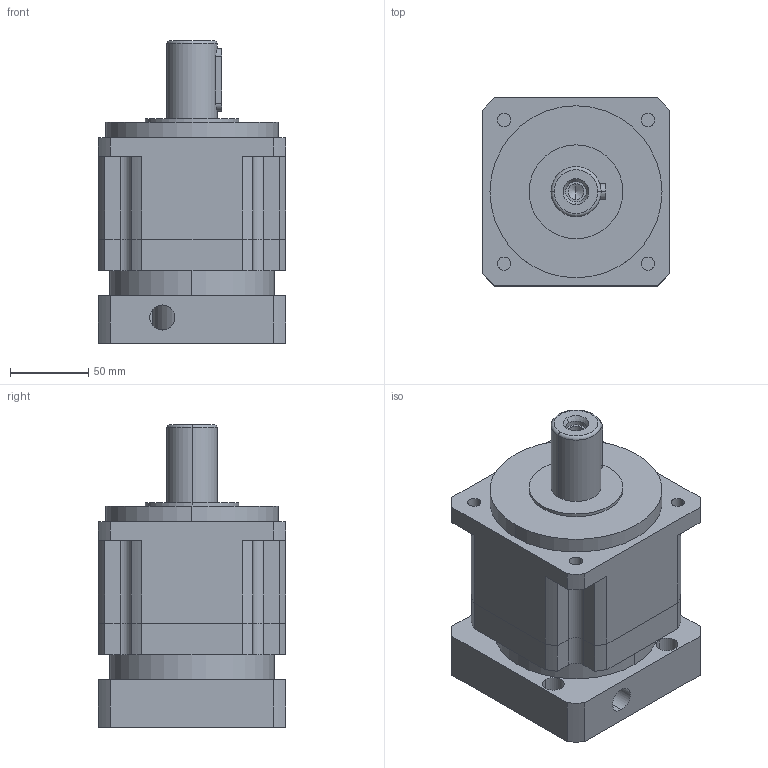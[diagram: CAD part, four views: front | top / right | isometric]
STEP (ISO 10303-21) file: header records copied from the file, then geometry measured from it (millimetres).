
FILE_DESCRIPTION (( 'STEP AP203' ), '1' );
FILE_NAME ('PAG120-L1-16-80-100.STEP', '2023-06-05T06:00:01', ( 'Windows User' ), ( 'P R C' ), 'SwSTEP 2.0', 'SolidWorks 2016', '' );
FILE_SCHEMA (( 'CONFIG_CONTROL_DESIGN' ));
Length unit declared in the file: millimetre
Products named in the file (7): PX120-本体齿圈_1; PX120-薊粣ん-16_LZ03_1; PX120-蟀諉-80-M6-100-LR60_1; 囀鞠褒蹟佪-M8℅25_1; 邧埴瑩 10x8x40_1; 粣創-6009 45x75x16_1; PAG120-L1-16-80-100
Assembly tree (6 placements, depth 2):
  PAG120-L1-16-80-100
    PX120-本体齿圈_1
    PX120-薊粣ん-16_LZ03_1
    PX120-蟀諉-80-M6-100-LR60_1
    囀鞠褒蹟佪-M8℅25_1
    邧埴瑩 10x8x40_1
    粣創-6009 45x75x16_1
Bounding box: 120 x 120 x 193.5 mm (x, y, z)
Volume: 1620747.2 mm3; surface area: 206473.5 mm2
Topology: 6 solids, 6 shells, 977 faces, 2708 edges, 1786 vertices
Faces by surface type: plane 523, cylinder 153, bspline 152, sphere 83, torus 50, cone 16
Entity records: 43807 total; most frequent: CARTESIAN_POINT 19374, ORIENTED_EDGE 5318, DIRECTION 4234, EDGE_CURVE 2659, VERTEX_POINT 1760, VECTOR 1498, LINE 1498, AXIS2_PLACEMENT_3D 1368
